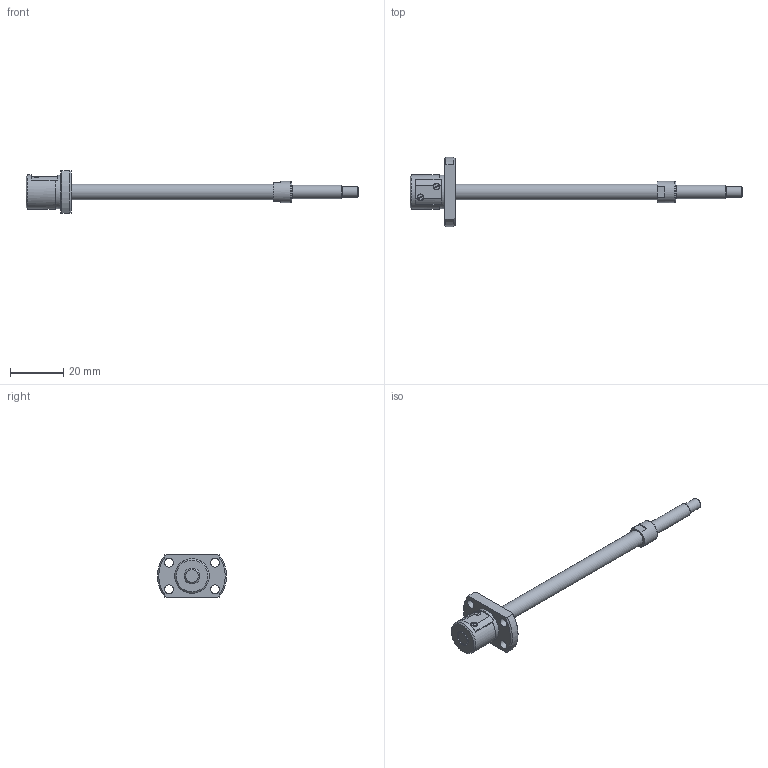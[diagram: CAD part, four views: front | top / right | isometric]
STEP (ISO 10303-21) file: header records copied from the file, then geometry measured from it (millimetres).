
FILE_DESCRIPTION( ( 'STEP AP203' ), '1' );
FILE_NAME( 'e:/temp/worker_109/temp/exporttempdir_2284_1816_abRfi/format_0/PSRT0601-89R125C5A0X(A0).stp', '2021-10-19T08:14:42', ( 'License CC BY-ND 4.0' ), ( 'CADENAS' ), ' ', 'PARTsolutions', ' ' );
FILE_SCHEMA( ( 'CONFIG_CONTROL_DESIGN' ) );
Length unit declared in the file: millimetre
Products named in the file (3): PSRT0601-89R125C5A0X(A0); _PSRT0601A_shaft; _PSR0601_nut
Assembly tree (2 placements, depth 2):
  PSRT0601-89R125C5A0X(A0)
    _PSRT0601A_shaft
    _PSR0601_nut
Bounding box: 125 x 26 x 16 mm (x, y, z)
Volume: 5983.5 mm3; surface area: 4412.2 mm2
Topology: 2 solids, 2 shells, 67 faces, 165 edges, 108 vertices
Faces by surface type: plane 32, cylinder 25, cone 9, torus 1
Full cylindrical faces by diameter (mm): 2.5 x2, 3.4 x4, 4 x1, 5 x1, 6 x2, 8 x1, 12.6 x1, 13 x1
Entity records: 2014 total; most frequent: CARTESIAN_POINT 364, DIRECTION 336, ORIENTED_EDGE 282, EDGE_CURVE 141, AXIS2_PLACEMENT_3D 135, VERTEX_POINT 103, EDGE_LOOP 102, FACE_OUTER_BOUND 81
